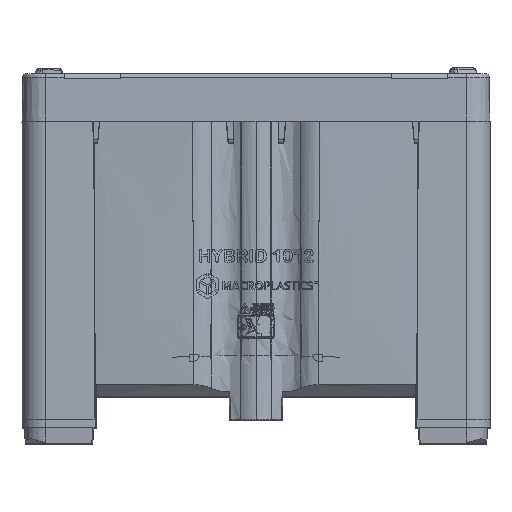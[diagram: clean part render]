
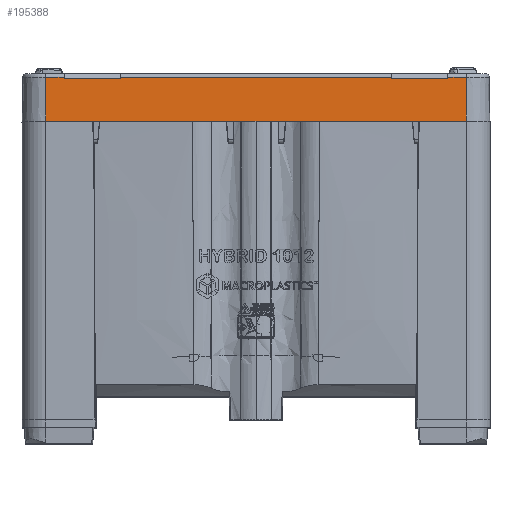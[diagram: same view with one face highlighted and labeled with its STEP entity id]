
A CAD part, top view. The second image highlights one B-rep face of the part: STEP entity #195388.
In plain terms, the highlighted planar face has unit normal (0, 0.018, 1).
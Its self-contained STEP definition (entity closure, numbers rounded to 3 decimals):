
#60 = CARTESIAN_POINT ( 'NONE',  ( 289.867, 790.185, 598.223 ) ) ;
#2305 = ORIENTED_EDGE ( 'NONE', *, *, #101821, .F. ) ;
#2403 = CARTESIAN_POINT ( 'NONE',  ( 410.133, 790.185, 598.223 ) ) ;
#4438 = ORIENTED_EDGE ( 'NONE', *, *, #226602, .T. ) ;
#6815 = CARTESIAN_POINT ( 'NONE',  ( -410.133, 790.185, 598.223 ) ) ;
#9802 = VERTEX_POINT ( 'NONE', #97064 ) ;
#24691 = VECTOR ( 'NONE', #218223, 1000. ) ;
#28901 = CARTESIAN_POINT ( 'NONE',  ( 410., 779.301, 598.413 ) ) ;
#29033 = LINE ( 'NONE', #6815, #88922 ) ;
#29414 = LINE ( 'NONE', #269678, #213354 ) ;
#31211 = CARTESIAN_POINT ( 'NONE',  ( -449.2, 688.4, 600. ) ) ;
#32644 = LINE ( 'NONE', #164569, #24691 ) ;
#38283 = CARTESIAN_POINT ( 'NONE',  ( -289.965, 782.14, 598.364 ) ) ;
#48196 = ORIENTED_EDGE ( 'NONE', *, *, #100314, .F. ) ;
#50482 = VECTOR ( 'NONE', #103846, 1000. ) ;
#53804 = DIRECTION ( 'NONE',  ( 1., 0., 0. ) ) ;
#57120 = CARTESIAN_POINT ( 'NONE',  ( 449.2, 688.4, 600. ) ) ;
#58634 = LINE ( 'NONE', #175485, #322384 ) ;
#76027 = EDGE_CURVE ( 'NONE', #279306, #326952, #109732, .T. ) ;
#84871 = CARTESIAN_POINT ( 'NONE',  ( -410.035, 782.14, 598.364 ) ) ;
#88922 = VECTOR ( 'NONE', #317119, 1000. ) ;
#93804 = LINE ( 'NONE', #2403, #209824 ) ;
#94000 = EDGE_LOOP ( 'NONE', ( #176272, #281957, #2305, #4438, #317146, #264542, #271547, #243985, #138446, #48196, #278136, #160193 ) ) ;
#94312 = DIRECTION ( 'NONE',  ( 1., 0., 0. ) ) ;
#97064 = CARTESIAN_POINT ( 'NONE',  ( 449.2, 782.14, 598.364 ) ) ;
#100314 = EDGE_CURVE ( 'NONE', #140604, #202071, #93804, .T. ) ;
#101821 = EDGE_CURVE ( 'NONE', #259605, #248586, #29414, .T. ) ;
#103846 = DIRECTION ( 'NONE',  ( -0.012, 1., -0.017 ) ) ;
#109732 = LINE ( 'NONE', #182189, #205623 ) ;
#113482 = EDGE_CURVE ( 'NONE', #294750, #125615, #235754, .T. ) ;
#116983 = AXIS2_PLACEMENT_3D ( 'NONE', #245783, #144126, #169835 ) ;
#118336 = LINE ( 'NONE', #60, #50482 ) ;
#120798 = EDGE_CURVE ( 'NONE', #279306, #294750, #137103, .T. ) ;
#124059 = DIRECTION ( 'NONE',  ( -1., 0., 0. ) ) ;
#124829 = CARTESIAN_POINT ( 'NONE',  ( 289.965, 782.14, 598.364 ) ) ;
#125615 = VERTEX_POINT ( 'NONE', #84871 ) ;
#129702 = CARTESIAN_POINT ( 'NONE',  ( -449.2, 688.4, 600. ) ) ;
#132018 = VERTEX_POINT ( 'NONE', #38283 ) ;
#133888 = DIRECTION ( 'NONE',  ( 0., 1., -0.017 ) ) ;
#135160 = EDGE_CURVE ( 'NONE', #9802, #202071, #32644, .T. ) ;
#136255 = FACE_OUTER_BOUND ( 'NONE', #94000, .T. ) ;
#137103 = LINE ( 'NONE', #31211, #216970 ) ;
#138446 = ORIENTED_EDGE ( 'NONE', *, *, #135160, .T. ) ;
#140604 = VERTEX_POINT ( 'NONE', #232979 ) ;
#144126 = DIRECTION ( 'NONE',  ( 0., 0.017, 1. ) ) ;
#154371 = DIRECTION ( 'NONE',  ( 0., 1., -0.017 ) ) ;
#158503 = CARTESIAN_POINT ( 'NONE',  ( -410., 779.301, 598.413 ) ) ;
#160193 = ORIENTED_EDGE ( 'NONE', *, *, #221128, .T. ) ;
#162316 = VECTOR ( 'NONE', #303974, 1000. ) ;
#164569 = CARTESIAN_POINT ( 'NONE',  ( 0., 782.14, 598.364 ) ) ;
#168821 = VERTEX_POINT ( 'NONE', #188050 ) ;
#169835 = DIRECTION ( 'NONE',  ( 0., -1., 0.017 ) ) ;
#173835 = DIRECTION ( 'NONE',  ( 1., 0., 0. ) ) ;
#175485 = CARTESIAN_POINT ( 'NONE',  ( 0., 782.14, 598.364 ) ) ;
#176272 = ORIENTED_EDGE ( 'NONE', *, *, #304879, .T. ) ;
#176800 = CARTESIAN_POINT ( 'NONE',  ( 449.2, 688.4, 600. ) ) ;
#181051 = EDGE_CURVE ( 'NONE', #248586, #132018, #298200, .T. ) ;
#182189 = CARTESIAN_POINT ( 'NONE',  ( 0., 688.4, 600. ) ) ;
#182526 = EDGE_CURVE ( 'NONE', #326952, #9802, #241862, .T. ) ;
#188050 = CARTESIAN_POINT ( 'NONE',  ( 290., 779.301, 598.413 ) ) ;
#188758 = CARTESIAN_POINT ( 'NONE',  ( -290., 779.301, 598.413 ) ) ;
#195388 = ADVANCED_FACE ( 'NONE', ( #136255 ), #220111, .T. ) ;
#197151 = CARTESIAN_POINT ( 'NONE',  ( -449.2, 782.14, 598.364 ) ) ;
#198460 = CARTESIAN_POINT ( 'NONE',  ( 0., 782.14, 598.364 ) ) ;
#202071 = VERTEX_POINT ( 'NONE', #215208 ) ;
#203214 = EDGE_CURVE ( 'NONE', #140604, #168821, #291008, .T. ) ;
#205623 = VECTOR ( 'NONE', #53804, 1000. ) ;
#209824 = VECTOR ( 'NONE', #284776, 1000. ) ;
#210854 = DIRECTION ( 'NONE',  ( -1., 0., 0. ) ) ;
#213354 = VECTOR ( 'NONE', #94312, 1000. ) ;
#215208 = CARTESIAN_POINT ( 'NONE',  ( 410.035, 782.14, 598.364 ) ) ;
#216970 = VECTOR ( 'NONE', #133888, 1000. ) ;
#218223 = DIRECTION ( 'NONE',  ( -1., 0., 0. ) ) ;
#220111 = PLANE ( 'NONE',  #116983 ) ;
#221128 = EDGE_CURVE ( 'NONE', #168821, #271160, #118336, .T. ) ;
#223924 = VECTOR ( 'NONE', #173835, 1000. ) ;
#226602 = EDGE_CURVE ( 'NONE', #259605, #125615, #29033, .T. ) ;
#232979 = CARTESIAN_POINT ( 'NONE',  ( 410., 779.301, 598.413 ) ) ;
#235754 = LINE ( 'NONE', #198460, #223924 ) ;
#241862 = LINE ( 'NONE', #176800, #301737 ) ;
#243985 = ORIENTED_EDGE ( 'NONE', *, *, #182526, .T. ) ;
#245783 = CARTESIAN_POINT ( 'NONE',  ( 0., 688.4, 600. ) ) ;
#248586 = VERTEX_POINT ( 'NONE', #188758 ) ;
#252625 = CARTESIAN_POINT ( 'NONE',  ( -289.867, 790.185, 598.223 ) ) ;
#259605 = VERTEX_POINT ( 'NONE', #158503 ) ;
#264542 = ORIENTED_EDGE ( 'NONE', *, *, #120798, .F. ) ;
#269678 = CARTESIAN_POINT ( 'NONE',  ( -410., 779.301, 598.413 ) ) ;
#271160 = VERTEX_POINT ( 'NONE', #124829 ) ;
#271547 = ORIENTED_EDGE ( 'NONE', *, *, #76027, .T. ) ;
#278136 = ORIENTED_EDGE ( 'NONE', *, *, #203214, .T. ) ;
#279306 = VERTEX_POINT ( 'NONE', #129702 ) ;
#281957 = ORIENTED_EDGE ( 'NONE', *, *, #181051, .F. ) ;
#283023 = VECTOR ( 'NONE', #210854, 1000. ) ;
#284776 = DIRECTION ( 'NONE',  ( 0.012, 1., -0.017 ) ) ;
#291008 = LINE ( 'NONE', #28901, #283023 ) ;
#294750 = VERTEX_POINT ( 'NONE', #197151 ) ;
#298200 = LINE ( 'NONE', #252625, #162316 ) ;
#301737 = VECTOR ( 'NONE', #154371, 1000. ) ;
#303974 = DIRECTION ( 'NONE',  ( 0.012, 1., -0.017 ) ) ;
#304879 = EDGE_CURVE ( 'NONE', #271160, #132018, #58634, .T. ) ;
#317119 = DIRECTION ( 'NONE',  ( -0.012, 1., -0.017 ) ) ;
#317146 = ORIENTED_EDGE ( 'NONE', *, *, #113482, .F. ) ;
#322384 = VECTOR ( 'NONE', #124059, 1000. ) ;
#326952 = VERTEX_POINT ( 'NONE', #57120 ) ;
